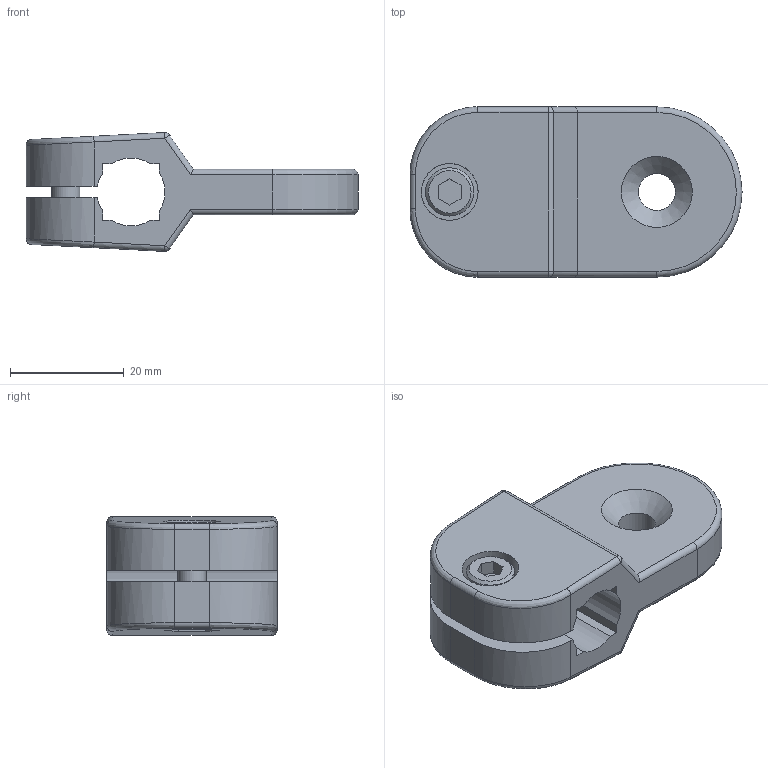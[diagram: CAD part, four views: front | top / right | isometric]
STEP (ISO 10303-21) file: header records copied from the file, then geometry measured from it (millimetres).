
FILE_DESCRIPTION (( 'STEP AP214' ), '1' );
FILE_NAME ('176-B12-C.step', '2022-02-09T12:38:15', ( '' ), ( '' ), 'SwSTEP 2.0', 'SolidWorks 2019', '' );
FILE_SCHEMA (( 'AUTOMOTIVE_DESIGN' ));
Length unit declared in the file: millimetre
Products named in the file (1): 176-B12-C
Bounding box: 58.5 x 30 x 20.94 mm (x, y, z)
Volume: 16981 mm3; surface area: 7505.1 mm2
Topology: 1 solids, 1 shells, 100 faces, 238 edges, 142 vertices
Faces by surface type: plane 44, cylinder 31, cone 15, bspline 4, sphere 4, torus 2
Full cylindrical faces by diameter (mm): 4.2 x1, 5 x1, 6.5 x1, 8.5 x1, 10 x1
Entity records: 3307 total; most frequent: CARTESIAN_POINT 713, ORIENTED_EDGE 450, DIRECTION 448, EDGE_CURVE 225, AXIS2_PLACEMENT_3D 163, VERTEX_POINT 141, VECTOR 122, LINE 122
